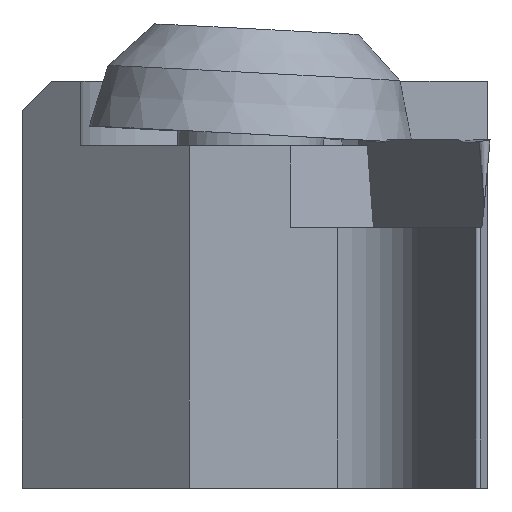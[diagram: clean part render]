
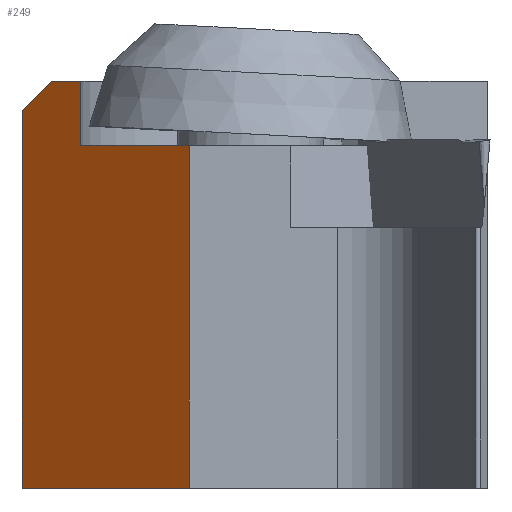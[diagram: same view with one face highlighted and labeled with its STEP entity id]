
A CAD part, left-side view. The second image highlights one B-rep face of the part: STEP entity #249.
In plain terms, the highlighted planar face has unit normal (-0.766, 0.643, 0).
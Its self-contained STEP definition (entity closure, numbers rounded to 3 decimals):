
#112=FACE_OUTER_BOUND('',#643,.T.);
#249=ADVANCED_FACE('',(#112),#408,.T.);
#408=PLANE('',#2932);
#643=EDGE_LOOP('',(#931,#932,#933,#934,#935,#936,#937));
#931=ORIENTED_EDGE('',*,*,#1930,.T.);
#932=ORIENTED_EDGE('',*,*,#1946,.T.);
#933=ORIENTED_EDGE('',*,*,#1874,.F.);
#934=ORIENTED_EDGE('',*,*,#1947,.F.);
#935=ORIENTED_EDGE('',*,*,#1948,.T.);
#936=ORIENTED_EDGE('',*,*,#1935,.T.);
#937=ORIENTED_EDGE('',*,*,#1916,.T.);
#1616=VERTEX_POINT('',#3943);
#1617=VERTEX_POINT('',#3945);
#1658=VERTEX_POINT('',#4149);
#1659=VERTEX_POINT('',#4151);
#1670=VERTEX_POINT('',#4177);
#1675=VERTEX_POINT('',#4189);
#1683=VERTEX_POINT('',#4212);
#1874=EDGE_CURVE('',#1616,#1617,#2412,.T.);
#1916=EDGE_CURVE('',#1659,#1658,#2418,.T.);
#1930=EDGE_CURVE('',#1658,#1670,#2426,.T.);
#1935=EDGE_CURVE('',#1675,#1659,#2429,.T.);
#1946=EDGE_CURVE('',#1670,#1617,#2438,.T.);
#1947=EDGE_CURVE('',#1683,#1616,#2439,.T.);
#1948=EDGE_CURVE('',#1683,#1675,#2440,.T.);
#2412=LINE('',#3944,#2613);
#2418=LINE('',#4150,#2619);
#2426=LINE('',#4178,#2627);
#2429=LINE('',#4188,#2630);
#2438=LINE('',#4210,#2639);
#2439=LINE('',#4211,#2640);
#2440=LINE('',#4213,#2641);
#2613=VECTOR('',#3184,1.);
#2619=VECTOR('',#3194,1.);
#2627=VECTOR('',#3218,1.);
#2630=VECTOR('',#3227,1.);
#2639=VECTOR('',#3246,1.);
#2640=VECTOR('',#3247,1.);
#2641=VECTOR('',#3248,1.);
#2932=AXIS2_PLACEMENT_3D('',#4214,#3249,#3250);
#3184=DIRECTION('',(-0.643,-0.766,0.));
#3194=DIRECTION('',(0.,0.,1.));
#3218=DIRECTION('',(0.643,0.766,0.));
#3227=DIRECTION('',(-0.643,-0.766,0.));
#3246=DIRECTION('',(0.,0.,1.));
#3247=DIRECTION('',(-0.51,-0.608,0.608));
#3248=DIRECTION('',(0.,0.,-1.));
#3249=DIRECTION('',(-0.766,0.643,0.));
#3250=DIRECTION('',(-0.643,-0.766,0.));
#3943=CARTESIAN_POINT('',(-13.539,9.,8.));
#3944=CARTESIAN_POINT('',(-12.377,10.385,8.));
#3945=CARTESIAN_POINT('',(-14.378,8.,8.));
#4149=CARTESIAN_POINT('',(-17.5,4.28,5.8));
#4150=CARTESIAN_POINT('',(-17.5,4.28,31.));
#4151=CARTESIAN_POINT('',(-17.5,4.28,-5.9));
#4177=CARTESIAN_POINT('',(-14.378,8.,5.8));
#4178=CARTESIAN_POINT('',(-17.5,4.28,5.8));
#4188=CARTESIAN_POINT('',(-12.377,10.385,-5.9));
#4189=CARTESIAN_POINT('',(-12.7,10.,-5.9));
#4210=CARTESIAN_POINT('',(-14.378,8.,31.));
#4211=CARTESIAN_POINT('',(-10.014,13.201,3.799));
#4212=CARTESIAN_POINT('',(-12.7,10.,7.));
#4213=CARTESIAN_POINT('',(-12.7,10.,31.));
#4214=CARTESIAN_POINT('',(-17.5,4.28,31.));
